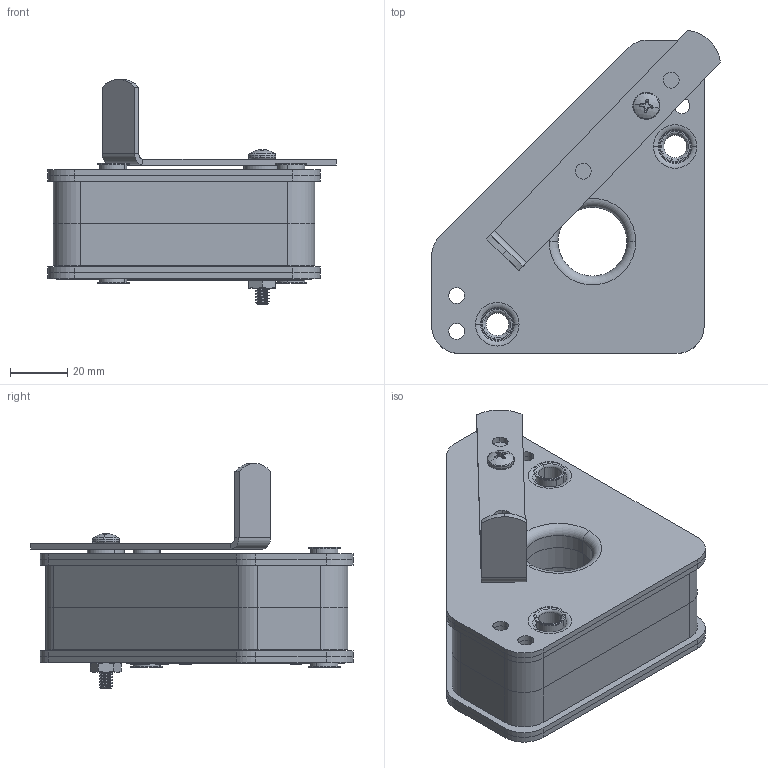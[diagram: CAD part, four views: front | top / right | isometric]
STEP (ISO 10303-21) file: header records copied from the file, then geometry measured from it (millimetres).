
FILE_DESCRIPTION (( 'STEP AP203' ), '1' );
FILE_NAME ('WS420.STEP', '2018-08-21T13:05:02', ( '' ), ( '' ), 'SwSTEP 2.0', 'SolidWorks 2015', '' );
FILE_SCHEMA (( 'CONFIG_CONTROL_DESIGN' ));
Products named in the file (1): WS420
Bounding box: 100.89 x 112.86 x 78.74 mm (x, y, z)
Volume: 213108.7 mm3; surface area: 145627 mm2
Topology: 15 solids, 15 shells, 1539 faces, 4216 edges, 2789 vertices
Faces by surface type: plane 648, cylinder 446, bspline 370, cone 37, torus 36, sphere 2
Entity records: 54640 total; most frequent: CARTESIAN_POINT 18900, ORIENTED_EDGE 8432, DIRECTION 5826, EDGE_CURVE 4216, VERTEX_POINT 2789, VECTOR 2412, LINE 2412, EDGE_LOOP 1725
